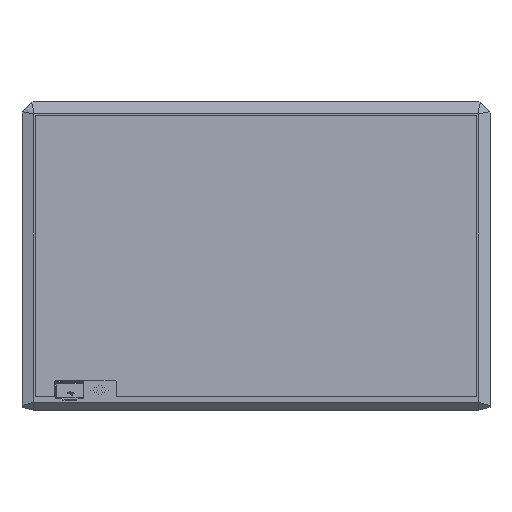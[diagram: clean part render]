
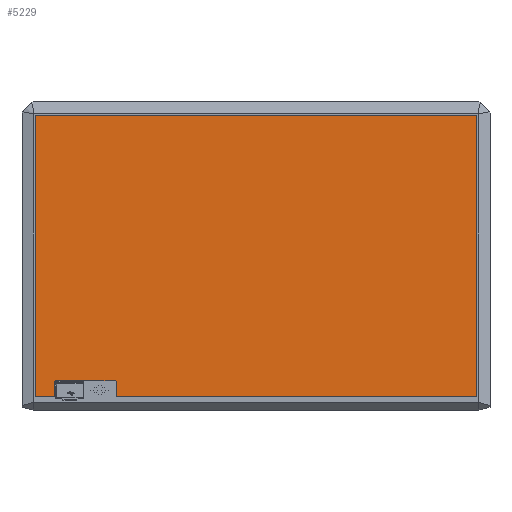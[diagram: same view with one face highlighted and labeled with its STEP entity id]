
A CAD part, front view. The second image highlights one B-rep face of the part: STEP entity #5229.
In plain terms, the highlighted planar face has unit normal (0, -1, 0).
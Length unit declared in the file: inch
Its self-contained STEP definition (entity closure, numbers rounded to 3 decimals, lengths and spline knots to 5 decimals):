
#5229=ADVANCED_FACE('',(#7116),#41843,.T.);
#7116=FACE_OUTER_BOUND('',#9003,.T.);
#9003=EDGE_LOOP('',(#18136,#18137,#18138,#18139,#18140,#18141,#18142,#18143,
#18144,#18145));
#18136=ORIENTED_EDGE('',*,*,#25625,.T.);
#18137=ORIENTED_EDGE('',*,*,#25629,.T.);
#18138=ORIENTED_EDGE('',*,*,#25632,.T.);
#18139=ORIENTED_EDGE('',*,*,#25635,.T.);
#18140=ORIENTED_EDGE('',*,*,#25638,.T.);
#18141=ORIENTED_EDGE('',*,*,#25641,.T.);
#18142=ORIENTED_EDGE('',*,*,#25644,.T.);
#18143=ORIENTED_EDGE('',*,*,#25647,.T.);
#18144=ORIENTED_EDGE('',*,*,#25650,.T.);
#18145=ORIENTED_EDGE('',*,*,#25652,.T.);
#25625=EDGE_CURVE('',#40086,#40085,#32356,.T.);
#25629=EDGE_CURVE('',#40085,#40088,#32360,.T.);
#25632=EDGE_CURVE('',#40088,#40090,#32363,.T.);
#25635=EDGE_CURVE('',#40090,#40092,#32366,.T.);
#25638=EDGE_CURVE('',#40092,#40094,#33161,.T.);
#25641=EDGE_CURVE('',#40094,#40096,#32369,.T.);
#25644=EDGE_CURVE('',#40096,#40098,#33164,.T.);
#25647=EDGE_CURVE('',#40098,#40100,#32372,.T.);
#25650=EDGE_CURVE('',#40100,#40102,#32375,.T.);
#25652=EDGE_CURVE('',#40102,#40086,#32377,.T.);
#32356=B_SPLINE_CURVE_WITH_KNOTS('',1,(#83121,#83122),.UNSPECIFIED.,.F.,
 .F.,(2,2),(-51.03937,-35.80315),.UNSPECIFIED.);
#32360=B_SPLINE_CURVE_WITH_KNOTS('',1,(#83129,#83130),.UNSPECIFIED.,.F.,
 .F.,(2,2),(-35.80315,-26.07874),.UNSPECIFIED.);
#32363=B_SPLINE_CURVE_WITH_KNOTS('',1,(#83135,#83136),.UNSPECIFIED.,.F.,
 .F.,(2,2),(-26.07874,-25.42126),.UNSPECIFIED.);
#32366=B_SPLINE_CURVE_WITH_KNOTS('',1,(#83141,#83142),.UNSPECIFIED.,.F.,
 .F.,(2,2),(-25.42126,-24.90157),.UNSPECIFIED.);
#32369=B_SPLINE_CURVE_WITH_KNOTS('',1,(#83155,#83156),.UNSPECIFIED.,.F.,
 .F.,(2,2),(-24.82283,-22.75984),.UNSPECIFIED.);
#32372=B_SPLINE_CURVE_WITH_KNOTS('',1,(#83169,#83170),.UNSPECIFIED.,.F.,
 .F.,(2,2),(-22.6811,-22.16142),.UNSPECIFIED.);
#32375=B_SPLINE_CURVE_WITH_KNOTS('',1,(#83175,#83176),.UNSPECIFIED.,.F.,
 .F.,(2,2),(-22.16142,-9.72441),.UNSPECIFIED.);
#32377=B_SPLINE_CURVE_WITH_KNOTS('',1,(#83179,#83180),.UNSPECIFIED.,.F.,
 .F.,(2,2),(-9.72441,0.),.UNSPECIFIED.);
#33161=(
BOUNDED_CURVE()
B_SPLINE_CURVE(2,(#83148,#83149,#83150),.UNSPECIFIED.,.F.,.F.)
B_SPLINE_CURVE_WITH_KNOTS((3,3),(-24.90157,-24.82283),
 .UNSPECIFIED.)
CURVE()
GEOMETRIC_REPRESENTATION_ITEM()
RATIONAL_B_SPLINE_CURVE((1.,0.707,1.))
REPRESENTATION_ITEM('')
);
#33164=(
BOUNDED_CURVE()
B_SPLINE_CURVE(2,(#83162,#83163,#83164),.UNSPECIFIED.,.F.,.F.)
B_SPLINE_CURVE_WITH_KNOTS((3,3),(-22.75984,-22.6811),
 .UNSPECIFIED.)
CURVE()
GEOMETRIC_REPRESENTATION_ITEM()
RATIONAL_B_SPLINE_CURVE((1.,0.707,1.))
REPRESENTATION_ITEM('')
);
#40085=VERTEX_POINT('',#83099);
#40086=VERTEX_POINT('',#83100);
#40088=VERTEX_POINT('',#83102);
#40090=VERTEX_POINT('',#83104);
#40092=VERTEX_POINT('',#83106);
#40094=VERTEX_POINT('',#83108);
#40096=VERTEX_POINT('',#83110);
#40098=VERTEX_POINT('',#83112);
#40100=VERTEX_POINT('',#83114);
#40102=VERTEX_POINT('',#83116);
#41843=PLANE('',#43227);
#43227=AXIS2_PLACEMENT_3D('',#83096,#44577,$);
#44577=DIRECTION('',(0.,-1.,0.));
#83096=CARTESIAN_POINT('',(11.42681,-0.94936,8.29113));
#83099=CARTESIAN_POINT('',(-5.71394,-0.94936,7.07557));
#83100=CARTESIAN_POINT('',(9.52228,-0.94936,7.07557));
#83102=CARTESIAN_POINT('',(-5.71394,-0.94936,-2.64884));
#83104=CARTESIAN_POINT('',(-5.05646,-0.94936,-2.64884));
#83106=CARTESIAN_POINT('',(-5.05646,-0.94936,-2.12915));
#83108=CARTESIAN_POINT('',(-5.01709,-0.94936,-2.08978));
#83110=CARTESIAN_POINT('',(-2.9541,-0.94936,-2.08978));
#83112=CARTESIAN_POINT('',(-2.91473,-0.94936,-2.12915));
#83114=CARTESIAN_POINT('',(-2.91473,-0.94936,-2.64884));
#83116=CARTESIAN_POINT('',(9.52228,-0.94936,-2.64884));
#83121=CARTESIAN_POINT('',(9.52228,-0.94936,7.07557));
#83122=CARTESIAN_POINT('',(-5.71394,-0.94936,7.07557));
#83129=CARTESIAN_POINT('',(-5.71394,-0.94936,7.07557));
#83130=CARTESIAN_POINT('',(-5.71394,-0.94936,-2.64884));
#83135=CARTESIAN_POINT('',(-5.71394,-0.94936,-2.64884));
#83136=CARTESIAN_POINT('',(-5.05646,-0.94936,-2.64884));
#83141=CARTESIAN_POINT('',(-5.05646,-0.94936,-2.64884));
#83142=CARTESIAN_POINT('',(-5.05646,-0.94936,-2.12915));
#83148=CARTESIAN_POINT('',(-5.05646,-0.94936,-2.12915));
#83149=CARTESIAN_POINT('',(-5.05646,-0.94936,-2.08978));
#83150=CARTESIAN_POINT('',(-5.01709,-0.94936,-2.08978));
#83155=CARTESIAN_POINT('',(-5.01709,-0.94936,-2.08978));
#83156=CARTESIAN_POINT('',(-2.9541,-0.94936,-2.08978));
#83162=CARTESIAN_POINT('',(-2.9541,-0.94936,-2.08978));
#83163=CARTESIAN_POINT('',(-2.91473,-0.94936,-2.08978));
#83164=CARTESIAN_POINT('',(-2.91473,-0.94936,-2.12915));
#83169=CARTESIAN_POINT('',(-2.91473,-0.94936,-2.12915));
#83170=CARTESIAN_POINT('',(-2.91473,-0.94936,-2.64884));
#83175=CARTESIAN_POINT('',(-2.91473,-0.94936,-2.64884));
#83176=CARTESIAN_POINT('',(9.52228,-0.94936,-2.64884));
#83179=CARTESIAN_POINT('',(9.52228,-0.94936,-2.64884));
#83180=CARTESIAN_POINT('',(9.52228,-0.94936,7.07557));
